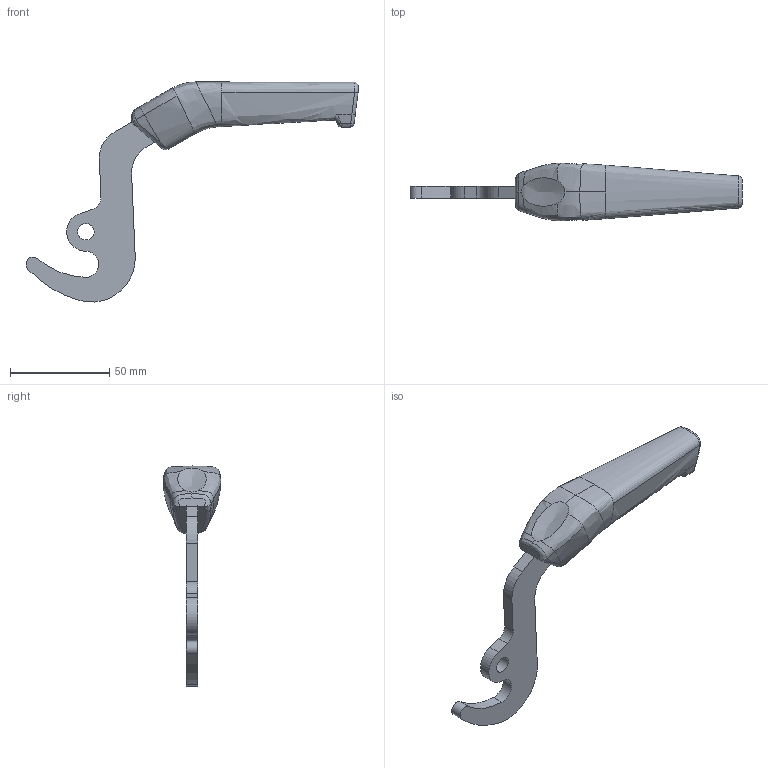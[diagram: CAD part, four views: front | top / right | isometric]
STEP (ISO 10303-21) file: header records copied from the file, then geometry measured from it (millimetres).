
FILE_DESCRIPTION( ('This file contains a STEP AP42 implementation' ,'as created by ZW3D STEP Interface translator.') ,'2;1' );
FILE_NAME( 'Raczka drzwiczek A7.stp' ,'26 826.133036', (''), ('ZWCAD Software Co.'), 'Version 1.0', 'ZW3D to STEP translator', '' );
FILE_SCHEMA(('AP242_MANAGED_MODEL_BASED_3D_ENGINEERING_MIM_LF { 1 0 10303 442 1 1 4 }'));
Length unit declared in the file: millimetre
Products named in the file (1): 0
Bounding box: 166.89 x 28.99 x 110.6 mm (x, y, z)
Volume: 64180.4 mm3; surface area: 18440.2 mm2
Topology: 2 solids, 2 shells, 82 faces, 214 edges, 134 vertices
Faces by surface type: bspline 45, plane 19, cylinder 18
Full cylindrical faces by diameter (mm): 8.3 x1
Entity records: 10539 total; most frequent: CARTESIAN_POINT 8817, ORIENTED_EDGE 420, EDGE_CURVE 210, DIRECTION 202, VERTEX_POINT 132, B_SPLINE_CURVE_WITH_KNOTS 106, EDGE_LOOP 84, FACE_OUTER_BOUND 82
